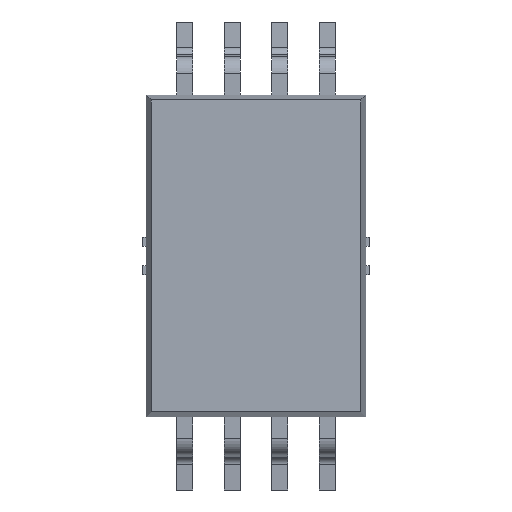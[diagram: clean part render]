
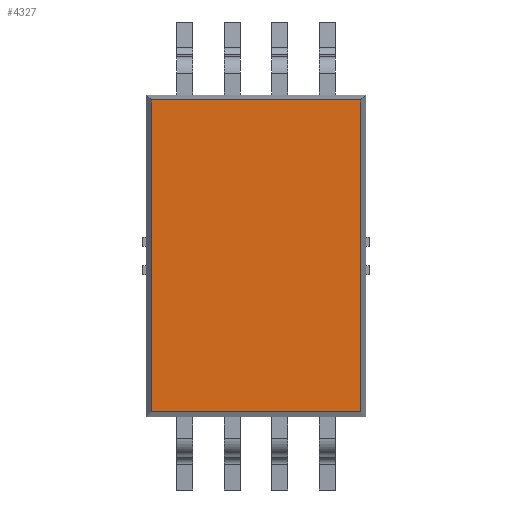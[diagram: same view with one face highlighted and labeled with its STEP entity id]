
A CAD part, top view. The second image highlights one B-rep face of the part: STEP entity #4327.
In plain terms, the highlighted planar face has unit normal (0, 0, 1).
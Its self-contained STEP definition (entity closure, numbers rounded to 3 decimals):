
#190 = LINE ( 'NONE', #2811, #3770 ) ;
#407 = CARTESIAN_POINT ( 'NONE',  ( 3.296, 5.249, 0.514 ) ) ;
#549 = EDGE_CURVE ( 'NONE', #4281, #2917, #1099, .T. ) ;
#602 = CARTESIAN_POINT ( 'NONE',  ( 3.228, 5.249, 0.514 ) ) ;
#774 = ORIENTED_EDGE ( 'NONE', *, *, #549, .T. ) ;
#797 = DIRECTION ( 'NONE',  ( 0., 0., 1. ) ) ;
#992 = CARTESIAN_POINT ( 'NONE',  ( 6.159, 9.513, 0.514 ) ) ;
#1006 = VECTOR ( 'NONE', #1097, 1000. ) ;
#1020 = FACE_OUTER_BOUND ( 'NONE', #2246, .T. ) ;
#1097 = DIRECTION ( 'NONE',  ( 0., 1., 0. ) ) ;
#1099 = LINE ( 'NONE', #3916, #1006 ) ;
#1250 = DIRECTION ( 'NONE',  ( -1., 0., 0. ) ) ;
#1773 = VECTOR ( 'NONE', #4466, 1000. ) ;
#1868 = VECTOR ( 'NONE', #2250, 1000. ) ;
#1871 = LINE ( 'NONE', #602, #1773 ) ;
#1899 = ORIENTED_EDGE ( 'NONE', *, *, #4129, .T. ) ;
#2239 = CARTESIAN_POINT ( 'NONE',  ( 3.296, 9.581, 0.514 ) ) ;
#2246 = EDGE_LOOP ( 'NONE', ( #2787, #3328, #1899, #774 ) ) ;
#2250 = DIRECTION ( 'NONE',  ( 0., -1., 0. ) ) ;
#2411 = VERTEX_POINT ( 'NONE', #407 ) ;
#2552 = EDGE_CURVE ( 'NONE', #2917, #4140, #190, .T. ) ;
#2683 = CARTESIAN_POINT ( 'NONE',  ( 3.296, 9.513, 0.514 ) ) ;
#2777 = AXIS2_PLACEMENT_3D ( 'NONE', #3923, #797, #3200 ) ;
#2787 = ORIENTED_EDGE ( 'NONE', *, *, #2552, .T. ) ;
#2811 = CARTESIAN_POINT ( 'NONE',  ( 6.227, 9.513, 0.514 ) ) ;
#2813 = LINE ( 'NONE', #2239, #1868 ) ;
#2829 = CARTESIAN_POINT ( 'NONE',  ( 6.159, 5.249, 0.514 ) ) ;
#2868 = PLANE ( 'NONE',  #2777 ) ;
#2917 = VERTEX_POINT ( 'NONE', #992 ) ;
#3200 = DIRECTION ( 'NONE',  ( 1., 0., 0. ) ) ;
#3328 = ORIENTED_EDGE ( 'NONE', *, *, #4527, .T. ) ;
#3770 = VECTOR ( 'NONE', #1250, 1000. ) ;
#3916 = CARTESIAN_POINT ( 'NONE',  ( 6.159, 5.181, 0.514 ) ) ;
#3923 = CARTESIAN_POINT ( 'NONE',  ( 0., 0., 0.514 ) ) ;
#4129 = EDGE_CURVE ( 'NONE', #2411, #4281, #1871, .T. ) ;
#4140 = VERTEX_POINT ( 'NONE', #2683 ) ;
#4281 = VERTEX_POINT ( 'NONE', #2829 ) ;
#4327 = ADVANCED_FACE ( 'NONE', ( #1020 ), #2868, .T. ) ;
#4466 = DIRECTION ( 'NONE',  ( 1., 0., 0. ) ) ;
#4527 = EDGE_CURVE ( 'NONE', #4140, #2411, #2813, .T. ) ;
